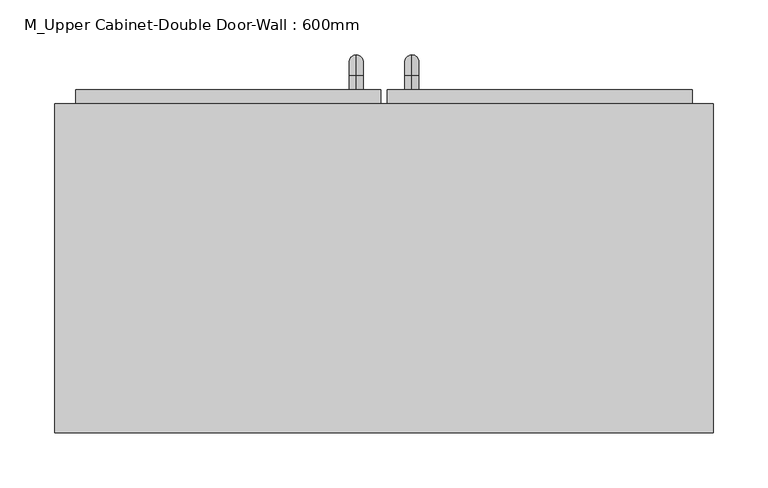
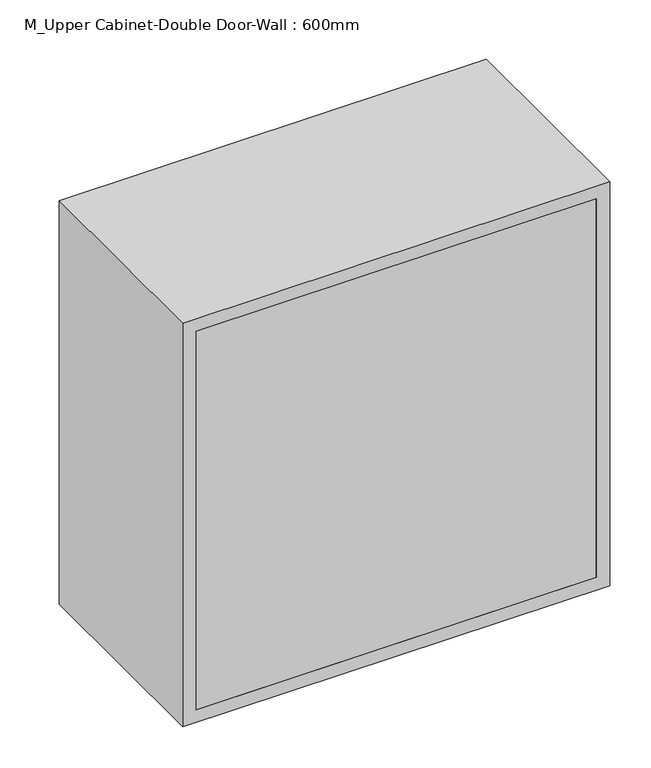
"""IFC4 building model written with IfcOpenShell, lengths in millimetres: furniture geometry, M_Upper Cabinet-Double Door-Wall : 600mm."""

from ifc_helpers import new_model, si_unit, point, frame, origin, place, context, project, spatial, polyline, circle_curve, ellipse_curve, trimmed, outline, extrude, source, transform, mapped, element, save
from ifc_brep_helpers import plane_surface, cylinder_surface, revolved_surface, advanced_brep


def m_upper_cabinet_double_door_wall_600mm_f8711566(model_context):
    return source(origin(), model_context, "Body", "SolidModel", [
        advanced_brep(
        [(55.1711628, 382.7, 1546.05), (55.1711628, 382.7, 1558.75), (55.1711628, 395.4, 1546.05), (55.1711628, 395.4, 1558.75), (55.1711628, 414.45, 1539.7), (55.1711628, 401.75, 1539.7), (55.1711628, 401.75, 1463.5), (55.1711628, 414.45, 1463.5), (55.1711628, 395.4, 1444.45), (55.1711628, 395.4, 1457.15), (55.1711628, 382.7, 1457.15), (55.1711628, 382.7, 1444.45)],
        [
            (0, 1, circle_curve(frame((55.1711628, 382.7, 1552.4), z_axis=(0.0, -1.0, 0.0), x_axis=(0.0, 0.0, -1.0)), 6.35)),
            (1, 0, circle_curve(frame((55.1711628, 382.7, 1552.4), z_axis=(0.0, -1.0, 0.0), x_axis=(0.0, 0.0, -1.0)), 6.35)),
            (0, 2),
            (2, 3, circle_curve(frame((55.1711628, 395.4, 1552.4), z_axis=(0.0, -1.0, 0.0), x_axis=(0.0, 0.0, -1.0)), 6.35)),
            (3, 1),
            (3, 2, circle_curve(frame((55.1711628, 395.4, 1552.4), z_axis=(0.0, -1.0, 0.0), x_axis=(0.0, 0.0, -1.0)), 6.35)),
            (4, 3, circle_curve(frame((55.1711628, 395.4, 1539.7), z_axis=(1.0, 0.0, 0.0), x_axis=(0.0, 0.0, 1.0)), 19.05)),
            (2, 5, circle_curve(frame((55.1711628, 395.4, 1539.7), z_axis=(-1.0, 0.0, 0.0), x_axis=(0.0, 0.0, 1.0)), 6.35)),
            (5, 4, circle_curve(frame((55.1711628, 408.1, 1539.7), z_axis=(0.0, 0.0, 1.0), x_axis=(0.0, -1.0, 0.0)), 6.35)),
            (4, 5, circle_curve(frame((55.1711628, 408.1, 1539.7), z_axis=(0.0, 0.0, 1.0), x_axis=(0.0, -1.0, 0.0)), 6.35)),
            (5, 6),
            (6, 7, circle_curve(frame((55.1711628, 408.1, 1463.5), z_axis=(0.0, 0.0, 1.0), x_axis=(0.0, -1.0, 0.0)), 6.35)),
            (7, 4),
            (7, 6, circle_curve(frame((55.1711628, 408.1, 1463.5), z_axis=(0.0, 0.0, 1.0), x_axis=(0.0, -1.0, 0.0)), 6.35)),
            (8, 7, circle_curve(frame((55.1711628, 395.4, 1463.5), z_axis=(1.0, 0.0, 0.0), x_axis=(0.0, 1.0, 0.0)), 19.05)),
            (6, 9, circle_curve(frame((55.1711628, 395.4, 1463.5), z_axis=(-1.0, 0.0, 0.0), x_axis=(0.0, 1.0, 0.0)), 6.35)),
            (9, 8, circle_curve(frame((55.1711628, 395.4, 1450.8), z_axis=(0.0, 1.0, 0.0), x_axis=(0.0, 0.0, 1.0)), 6.35)),
            (8, 9, circle_curve(frame((55.1711628, 395.4, 1450.8), z_axis=(0.0, 1.0, 0.0), x_axis=(0.0, 0.0, 1.0)), 6.35)),
            (10, 11, circle_curve(frame((55.1711628, 382.7, 1450.8), z_axis=(0.0, -1.0, 0.0), x_axis=(0.0, 0.0, 1.0)), 6.35)),
            (11, 10, circle_curve(frame((55.1711628, 382.7, 1450.8), z_axis=(0.0, -1.0, 0.0), x_axis=(0.0, 0.0, 1.0)), 6.35)),
            (9, 10),
            (11, 8),
        ],
        [
            plane_surface(frame((48.8211628, 382.7, 1552.4), z_axis=(0.0, -1.0, 0.0), x_axis=(0.0, 0.0, 1.0))),
            cylinder_surface(frame((55.1711628, 382.7, 1552.4), z_axis=(0.0, -1.0, 0.0), x_axis=(0.0, 0.0, -1.0)), 6.35),
            revolved_surface(trimmed(ellipse_curve(frame((55.1711628, 395.4, 1552.4), z_axis=(0.0, -1.0, 0.0), x_axis=(0.0, 0.0, -1.0)), 6.35, 6.35), [point((55.1711628, 395.4, 1546.05))], [point((55.1711628, 395.4, 1558.75))], True, "CARTESIAN"), (55.1711628, 395.4, 1539.7), (-1.0, 0.0, 0.0)),
            revolved_surface(trimmed(ellipse_curve(frame((55.1711628, 395.4, 1552.4), z_axis=(0.0, -1.0, 0.0), x_axis=(0.0, 0.0, -1.0)), 6.35, 6.35), [point((55.1711628, 395.4, 1558.75))], [point((55.1711628, 395.4, 1546.05))], True, "CARTESIAN"), (55.1711628, 395.4, 1539.7), (-1.0, 0.0, 0.0)),
            cylinder_surface(frame((55.1711628, 408.1, 1539.7), z_axis=(0.0, 0.0, 1.0), x_axis=(0.0, -1.0, 0.0)), 6.35),
            revolved_surface(trimmed(ellipse_curve(frame((55.1711628, 408.1, 1463.5), z_axis=(0.0, 0.0, 1.0), x_axis=(0.0, -1.0, 0.0)), 6.35, 6.35), [point((55.1711628, 401.75, 1463.5))], [point((55.1711628, 414.45, 1463.5))], True, "CARTESIAN"), (55.1711628, 395.4, 1463.5), (-1.0, 0.0, 0.0)),
            revolved_surface(trimmed(ellipse_curve(frame((55.1711628, 408.1, 1463.5), z_axis=(0.0, 0.0, 1.0), x_axis=(0.0, -1.0, 0.0)), 6.35, 6.35), [point((55.1711628, 414.45, 1463.5))], [point((55.1711628, 401.75, 1463.5))], True, "CARTESIAN"), (55.1711628, 395.4, 1463.5), (-1.0, 0.0, 0.0)),
            plane_surface(frame((48.8211628, 382.7, 1450.8), z_axis=(0.0, -1.0, 0.0), x_axis=(0.0, 0.0, -1.0))),
            cylinder_surface(frame((55.1711628, 395.4, 1450.8), z_axis=(0.0, 1.0, 0.0), x_axis=(0.0, 0.0, 1.0)), 6.35),
        ],
        [
            (0, [[1, 2]]),
            (1, [[-1, 3, 4, 5]]),
            (1, [[-2, -5, 6, -3]]),
            (2, [[7, -4, 8, 9]]),
            (3, [[-8, -6, -7, 10]]),
            (4, [[-9, 11, 12, 13]]),
            (4, [[-10, -13, 14, -11]]),
            (5, [[15, -12, 16, 17]]),
            (6, [[-16, -14, -15, 18]]),
            (7, [[19, 20]]),
            (8, [[-17, 21, -20, 22]]),
            (8, [[-18, -22, -19, -21]]),
        ],
    ),
        advanced_brep(
        [(4.3711628, 382.7, 1546.05), (4.3711628, 382.7, 1558.75), (4.3711628, 395.4, 1546.05), (4.3711628, 395.4, 1558.75), (4.3711628, 414.45, 1539.7), (4.3711628, 401.75, 1539.7), (4.3711628, 401.75, 1463.5), (4.3711628, 414.45, 1463.5), (4.3711628, 395.4, 1444.45), (4.3711628, 395.4, 1457.15), (4.3711628, 382.7, 1457.15), (4.3711628, 382.7, 1444.45)],
        [
            (0, 1, circle_curve(frame((4.3711628, 382.7, 1552.4), z_axis=(0.0, -1.0, 0.0), x_axis=(0.0, 0.0, 1.0)), 6.35)),
            (1, 0, circle_curve(frame((4.3711628, 382.7, 1552.4), z_axis=(0.0, -1.0, 0.0), x_axis=(0.0, 0.0, 1.0)), 6.35)),
            (0, 2),
            (2, 3, circle_curve(frame((4.3711628, 395.4, 1552.4), z_axis=(0.0, -1.0, 0.0), x_axis=(0.0, 0.0, 1.0)), 6.35)),
            (3, 1),
            (3, 2, circle_curve(frame((4.3711628, 395.4, 1552.4), z_axis=(0.0, -1.0, 0.0), x_axis=(0.0, 0.0, 1.0)), 6.35)),
            (4, 3, circle_curve(frame((4.3711628, 395.4, 1539.7), z_axis=(1.0, 0.0, 0.0), x_axis=(0.0, 0.0, 1.0)), 19.05)),
            (2, 5, circle_curve(frame((4.3711628, 395.4, 1539.7), z_axis=(-1.0, 0.0, 0.0), x_axis=(0.0, 0.0, 1.0)), 6.35)),
            (5, 4, circle_curve(frame((4.3711628, 408.1, 1539.7), z_axis=(0.0, 0.0, 1.0), x_axis=(0.0, 1.0, 0.0)), 6.35)),
            (4, 5, circle_curve(frame((4.3711628, 408.1, 1539.7), z_axis=(0.0, 0.0, 1.0), x_axis=(0.0, 1.0, 0.0)), 6.35)),
            (5, 6),
            (6, 7, circle_curve(frame((4.3711628, 408.1, 1463.5), z_axis=(0.0, 0.0, 1.0), x_axis=(0.0, 1.0, 0.0)), 6.35)),
            (7, 4),
            (7, 6, circle_curve(frame((4.3711628, 408.1, 1463.5), z_axis=(0.0, 0.0, 1.0), x_axis=(0.0, 1.0, 0.0)), 6.35)),
            (8, 7, circle_curve(frame((4.3711628, 395.4, 1463.5), z_axis=(1.0, 0.0, 0.0), x_axis=(0.0, 1.0, 0.0)), 19.05)),
            (6, 9, circle_curve(frame((4.3711628, 395.4, 1463.5), z_axis=(-1.0, 0.0, 0.0), x_axis=(0.0, 1.0, 0.0)), 6.35)),
            (9, 8, circle_curve(frame((4.3711628, 395.4, 1450.8), z_axis=(0.0, 1.0, 0.0), x_axis=(0.0, 0.0, -1.0)), 6.35)),
            (8, 9, circle_curve(frame((4.3711628, 395.4, 1450.8), z_axis=(0.0, 1.0, 0.0), x_axis=(0.0, 0.0, -1.0)), 6.35)),
            (10, 11, circle_curve(frame((4.3711628, 382.7, 1450.8), z_axis=(0.0, -1.0, 0.0), x_axis=(0.0, 0.0, -1.0)), 6.35)),
            (11, 10, circle_curve(frame((4.3711628, 382.7, 1450.8), z_axis=(0.0, -1.0, 0.0), x_axis=(0.0, 0.0, -1.0)), 6.35)),
            (9, 10),
            (11, 8),
        ],
        [
            plane_surface(frame((-1.9788372, 382.7, 1552.4), z_axis=(0.0, -1.0, 0.0), x_axis=(0.0, 0.0, 1.0))),
            cylinder_surface(frame((4.3711628, 382.7, 1552.4), z_axis=(0.0, -1.0, 0.0), x_axis=(0.0, 0.0, 1.0)), 6.35),
            revolved_surface(trimmed(ellipse_curve(frame((4.3711628, 395.4, 1552.4), z_axis=(0.0, -1.0, 0.0), x_axis=(0.0, 0.0, 1.0)), 6.35, 6.35), [point((4.3711628, 395.4, 1546.05))], [point((4.3711628, 395.4, 1558.75))], True, "CARTESIAN"), (4.3711628, 395.4, 1539.7), (-1.0, 0.0, 0.0)),
            revolved_surface(trimmed(ellipse_curve(frame((4.3711628, 395.4, 1552.4), z_axis=(0.0, -1.0, 0.0), x_axis=(0.0, 0.0, 1.0)), 6.35, 6.35), [point((4.3711628, 395.4, 1558.75))], [point((4.3711628, 395.4, 1546.05))], True, "CARTESIAN"), (4.3711628, 395.4, 1539.7), (-1.0, 0.0, 0.0)),
            cylinder_surface(frame((4.3711628, 408.1, 1539.7), z_axis=(0.0, 0.0, 1.0), x_axis=(0.0, 1.0, 0.0)), 6.35),
            revolved_surface(trimmed(ellipse_curve(frame((4.3711628, 408.1, 1463.5), z_axis=(0.0, 0.0, 1.0), x_axis=(0.0, 1.0, 0.0)), 6.35, 6.35), [point((4.3711628, 401.75, 1463.5))], [point((4.3711628, 414.45, 1463.5))], True, "CARTESIAN"), (4.3711628, 395.4, 1463.5), (-1.0, 0.0, 0.0)),
            revolved_surface(trimmed(ellipse_curve(frame((4.3711628, 408.1, 1463.5), z_axis=(0.0, 0.0, 1.0), x_axis=(0.0, 1.0, 0.0)), 6.35, 6.35), [point((4.3711628, 414.45, 1463.5))], [point((4.3711628, 401.75, 1463.5))], True, "CARTESIAN"), (4.3711628, 395.4, 1463.5), (-1.0, 0.0, 0.0)),
            plane_surface(frame((-1.9788372, 382.7, 1450.8), z_axis=(0.0, -1.0, 0.0), x_axis=(0.0, 0.0, -1.0))),
            cylinder_surface(frame((4.3711628, 395.4, 1450.8), z_axis=(0.0, 1.0, 0.0), x_axis=(0.0, 0.0, -1.0)), 6.35),
        ],
        [
            (0, [[1, 2]]),
            (1, [[-1, 3, 4, 5]]),
            (1, [[-2, -5, 6, -3]]),
            (2, [[7, -4, 8, 9]]),
            (3, [[-8, -6, -7, 10]]),
            (4, [[-9, 11, 12, 13]]),
            (4, [[-10, -13, 14, -11]]),
            (5, [[15, -12, 16, 17]]),
            (6, [[-16, -14, -15, 18]]),
            (7, [[19, 20]]),
            (8, [[-17, 21, -20, 22]]),
            (8, [[-18, -22, -19, -21]]),
        ],
    ),
        extrude(outline(polyline([(32.9461628, 382.7), (310.7211628, 382.7), (310.7211628, 350.95), (32.9461628, 350.95), (32.9461628, 382.7)])), frame((0.0, 0.0, 1419.05), z_axis=(0.0, 0.0, 1.0), x_axis=(1.0, 0.0, 0.0)), (0.0, 0.0, 1.0), 561.9),
        extrude(outline(polyline([(-251.1788372, 382.7), (26.5961628, 382.7), (26.5961628, 350.95), (-251.1788372, 350.95), (-251.1788372, 382.7)])), frame((0.0, 0.0, 1419.05), z_axis=(0.0, 0.0, 1.0), x_axis=(1.0, 0.0, 0.0)), (0.0, 0.0, 1.0), 561.9),
        extrude(outline(polyline([(310.7211628, 70.0), (-251.1788372, 70.0), (-251.1788372, 89.05), (310.7211628, 89.05), (310.7211628, 70.0)])), frame((0.0, 0.0, 1419.05), z_axis=(0.0, 0.0, 1.0), x_axis=(1.0, 0.0, 0.0)), (0.0, 0.0, 1.0), 561.9),
        extrude(outline(polyline([(2000.0, -270.2288372), (1400.0, -270.2288372), (1400.0, 329.7711628), (2000.0, 329.7711628), (2000.0, -270.2288372)]), holes=[polyline([(1980.95, -251.1788372), (1980.95, 310.7211628), (1419.05, 310.7211628), (1419.05, -251.1788372), (1980.95, -251.1788372)])]), frame((0.0, 70.0, 0.0), z_axis=(0.0, 1.0, 0.0), x_axis=(0.0, 0.0, 1.0)), (0.0, 0.0, 1.0), 300.0),
    ])


if __name__ == "__main__":
    model = new_model("IFC4")
    model_context = context("Model", 3, world=origin())
    ifc_project = project(units=[si_unit("LENGTHUNIT", "METRE", prefix="MILLI")], contexts=[model_context])
    site = spatial("IfcSite", under=ifc_project)
    building = spatial("IfcBuilding", under=site)
    placement = place(None, origin())
    m_upper_cabinet_double_door_wall_600mm_shape = m_upper_cabinet_double_door_wall_600mm_f8711566(model_context)
    element("IfcFurniture", 1, ObjectType="M_Upper Cabinet-Double Door-Wall : 600mm", at=placement, inside=building, context=model_context, shape_type="MappedRepresentation", body=[
        mapped(m_upper_cabinet_double_door_wall_600mm_shape, transform((0.0, 0.0, 0.0), x_axis=(1.0, 0.0, 0.0), y_axis=(0.0, 1.0, 0.0), z_axis=(0.0, 0.0, 1.0))),
    ])
    save(model, "model.ifc")
